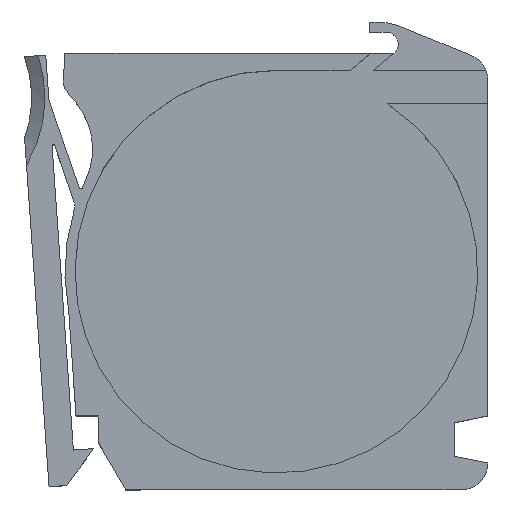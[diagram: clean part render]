
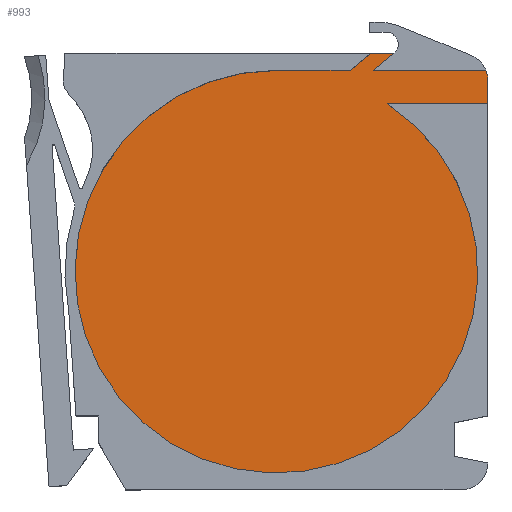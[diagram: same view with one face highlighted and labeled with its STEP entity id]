
A CAD part, top view. The second image highlights one B-rep face of the part: STEP entity #993.
In plain terms, the highlighted planar face has unit normal (0, 0, 1).
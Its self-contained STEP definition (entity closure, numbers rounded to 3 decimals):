
#58=PLANE('',#1089);
#108=FACE_OUTER_BOUND('',#158,.T.);
#158=EDGE_LOOP('',(#921,#922,#923,#924,#925,#926,#927,#928,#929));
#246=LINE('',#1616,#354);
#249=LINE('',#1627,#357);
#253=LINE('',#1633,#361);
#255=LINE('',#1637,#363);
#256=LINE('',#1640,#364);
#260=LINE('',#1647,#368);
#262=LINE('',#1650,#370);
#354=VECTOR('',#1306,10.);
#357=VECTOR('',#1317,10.);
#361=VECTOR('',#1323,10.);
#363=VECTOR('',#1327,10.);
#364=VECTOR('',#1330,10.);
#368=VECTOR('',#1336,10.);
#370=VECTOR('',#1340,10.);
#404=CIRCLE('',#1073,4.);
#405=CIRCLE('',#1081,30.);
#489=VERTEX_POINT('',#1606);
#491=VERTEX_POINT('',#1614);
#493=VERTEX_POINT('',#1620);
#494=VERTEX_POINT('',#1622);
#495=VERTEX_POINT('',#1626);
#496=VERTEX_POINT('',#1631);
#497=VERTEX_POINT('',#1635);
#498=VERTEX_POINT('',#1639);
#500=VERTEX_POINT('',#1645);
#620=EDGE_CURVE('',#491,#489,#246,.T.);
#623=EDGE_CURVE('',#493,#494,#404,.T.);
#625=EDGE_CURVE('',#494,#495,#249,.T.);
#629=EDGE_CURVE('',#496,#491,#253,.T.);
#631=EDGE_CURVE('',#497,#496,#255,.T.);
#632=EDGE_CURVE('',#495,#498,#256,.T.);
#636=EDGE_CURVE('',#500,#493,#260,.T.);
#638=EDGE_CURVE('',#489,#500,#262,.T.);
#639=EDGE_CURVE('',#497,#498,#405,.T.);
#921=ORIENTED_EDGE('',*,*,#623,.F.);
#922=ORIENTED_EDGE('',*,*,#636,.F.);
#923=ORIENTED_EDGE('',*,*,#638,.F.);
#924=ORIENTED_EDGE('',*,*,#620,.F.);
#925=ORIENTED_EDGE('',*,*,#629,.F.);
#926=ORIENTED_EDGE('',*,*,#631,.F.);
#927=ORIENTED_EDGE('',*,*,#639,.T.);
#928=ORIENTED_EDGE('',*,*,#632,.F.);
#929=ORIENTED_EDGE('',*,*,#625,.F.);
#993=ADVANCED_FACE('',(#108),#58,.T.);
#1073=AXIS2_PLACEMENT_3D('',#1623,#1312,#1313);
#1081=AXIS2_PLACEMENT_3D('',#1652,#1343,#1344);
#1089=AXIS2_PLACEMENT_3D('',#1664,#1363,#1364);
#1306=DIRECTION('',(1.,0.,0.));
#1312=DIRECTION('center_axis',(0.,0.,-1.));
#1313=DIRECTION('ref_axis',(0.707,0.707,0.));
#1317=DIRECTION('',(0.,-1.,0.));
#1323=DIRECTION('',(0.769,0.64,0.));
#1327=DIRECTION('',(1.,0.,0.));
#1330=DIRECTION('',(-1.,0.,0.));
#1336=DIRECTION('',(1.,0.,0.));
#1340=DIRECTION('',(-0.769,-0.64,0.));
#1343=DIRECTION('center_axis',(0.,0.,1.));
#1344=DIRECTION('ref_axis',(1.,0.,0.));
#1363=DIRECTION('center_axis',(0.,0.,1.));
#1364=DIRECTION('ref_axis',(1.,0.,0.));
#1606=CARTESIAN_POINT('',(17.5,65.,0.));
#1614=CARTESIAN_POINT('',(14.,65.,0.));
#1616=CARTESIAN_POINT('',(-15.375,65.,0.));
#1620=CARTESIAN_POINT('',(31.208,62.5,0.));
#1622=CARTESIAN_POINT('',(31.5,61.,0.));
#1623=CARTESIAN_POINT('Origin',(27.5,61.,0.));
#1626=CARTESIAN_POINT('',(31.5,57.5,0.));
#1627=CARTESIAN_POINT('',(31.5,49.375,0.));
#1631=CARTESIAN_POINT('',(10.996,62.5,0.));
#1633=CARTESIAN_POINT('',(10.996,62.5,0.));
#1635=CARTESIAN_POINT('',(0.,62.5,0.));
#1637=CARTESIAN_POINT('',(0.,62.5,0.));
#1639=CARTESIAN_POINT('',(16.583,57.5,0.));
#1640=CARTESIAN_POINT('',(16.583,57.5,0.));
#1645=CARTESIAN_POINT('',(14.496,62.5,0.));
#1647=CARTESIAN_POINT('',(0.,62.5,0.));
#1650=CARTESIAN_POINT('',(14.496,62.5,0.));
#1652=CARTESIAN_POINT('Origin',(0.,32.5,0.));
#1664=CARTESIAN_POINT('Origin',(0.,32.5,0.));
